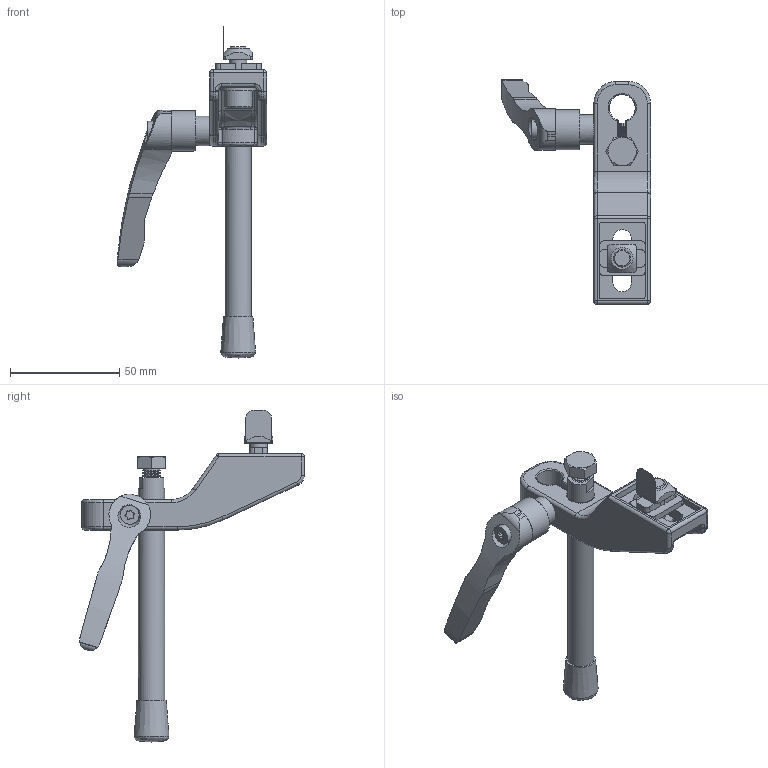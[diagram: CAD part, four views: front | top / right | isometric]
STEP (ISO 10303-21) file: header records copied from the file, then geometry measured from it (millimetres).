
FILE_DESCRIPTION (( 'STEP AP214' ), '1' );
FILE_NAME ('955-017AV.STEP', '2022-06-20T08:57:25', ( '' ), ( '' ), 'SwSTEP 2.0', 'SolidWorks 2021', '' );
FILE_SCHEMA (( 'AUTOMOTIVE_DESIGN' ));
Length unit declared in the file: millimetre
Products named in the file (13): 955-017AV; Hexagon Nut ISO - 4036 - M6 - N_Hexagon Nut ISO - 4036 - M6 - N; 084.711.006_L1; RONDELLE_910-111; 955-016; CHC THE_910-052H; 084.711.006_L2; 955-015-1; ISO 4018 - M8 x 20-NS_ISO 4018 - M8 x 20-NS; 955-018; ISO 4762 M6 x 20 --- 20S_ISO 4762 M6 x 20 --- 20S; 084.711.005; 910-014
Assembly tree (12 placements, depth 3):
  955-017AV
    955-015-1
      084.711.006_L1
      084.711.006_L2
      ISO 4762 M6 x 20 --- 20S_ISO 4762 M6 x 20 --- 20S
      Hexagon Nut ISO - 4036 - M6 - N_Hexagon Nut ISO - 4036 - M6 - N
    955-016
    084.711.005
    ISO 4018 - M8 x 20-NS_ISO 4018 - M8 x 20-NS
    RONDELLE_910-111
    CHC THE_910-052H
    910-014
    955-018
Bounding box: 68.28 x 102.96 x 152 mm (x, y, z)
Volume: 58490.8 mm3; surface area: 31006.9 mm2
Topology: 11 solids, 11 shells, 452 faces, 1145 edges, 710 vertices
Faces by surface type: cylinder 170, plane 136, cone 93, bspline 51, torus 2
Full cylindrical faces by diameter (mm): 5 x2, 6 x21, 6.5 x2, 6.8 x2, 7.98 x1, 8 x17, 8.4 x1, 8.5 x1, 8.6 x2, 10 x1, 12 x1, 13 x1, 13.5 x1, 14 x1, 16 x1, 18.5 x1
Entity records: 14210 total; most frequent: CARTESIAN_POINT 4546, DIRECTION 1875, ORIENTED_EDGE 1744, EDGE_CURVE 872, AXIS2_PLACEMENT_3D 750, EDGE_LOOP 620, VERTEX_POINT 594, FACE_OUTER_BOUND 514
